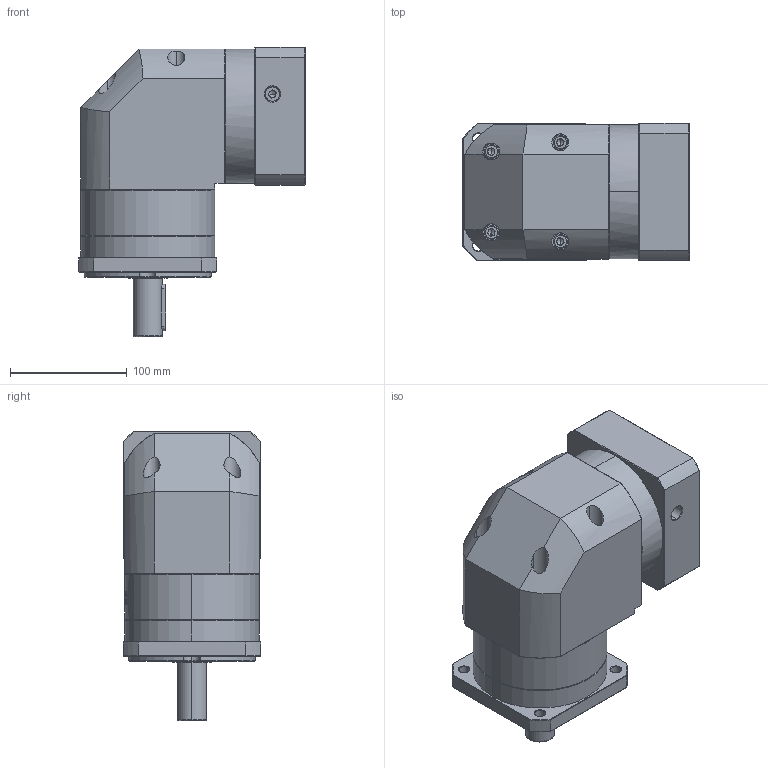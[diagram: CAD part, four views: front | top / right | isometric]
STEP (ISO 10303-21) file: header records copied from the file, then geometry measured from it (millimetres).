
FILE_DESCRIPTION (( 'STEP AP214' ), '1' );
FILE_NAME ('ZFR120A-D25-L1-P2-22-110-130-M8.step', '2023-08-27T08:01:22', ( '' ), ( '' ), 'SwSTEP 2.0', 'SolidWorks 2016', '' );
FILE_SCHEMA (( 'AUTOMOTIVE_DESIGN' ));
Length unit declared in the file: millimetre
Products named in the file (1): ZFR120A-D25-L1-P2-22-110-130-M8
Bounding box: 193.9 x 118 x 248 mm (x, y, z)
Volume: 2871524.1 mm3; surface area: 243969.5 mm2
Topology: 6 solids, 6 shells, 2266 faces, 5965 edges, 3804 vertices
Faces by surface type: plane 1061, cylinder 434, bspline 425, cone 338, torus 8
Entity records: 124047 total; most frequent: CARTESIAN_POINT 48729, ORIENTED_EDGE 11870, DIRECTION 8599, EDGE_CURVE 5935, VERTEX_POINT 3804, LINE 3159, VECTOR 3159, AXIS2_PLACEMENT_3D 2720
